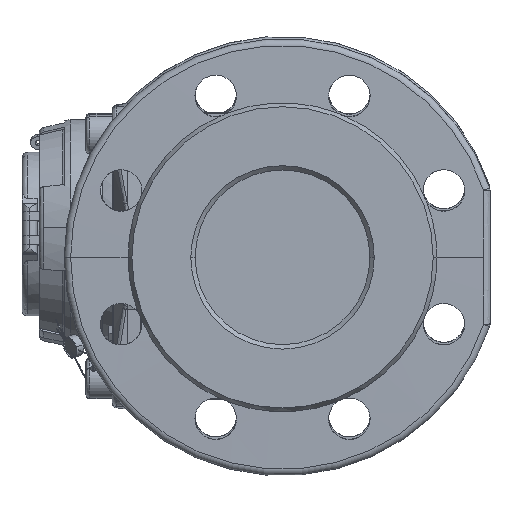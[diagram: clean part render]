
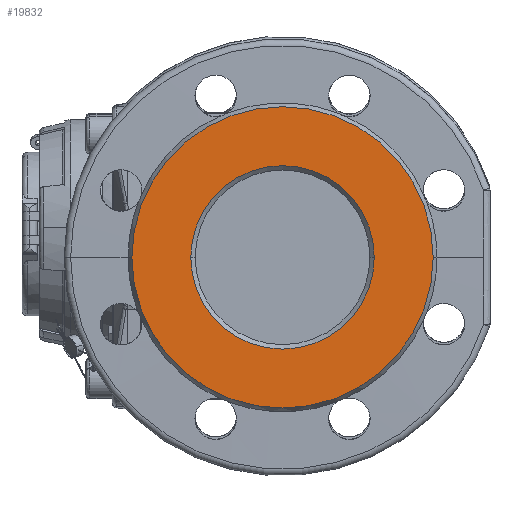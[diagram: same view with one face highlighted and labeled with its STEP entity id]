
A CAD part, left-side view. The second image highlights one B-rep face of the part: STEP entity #19832.
In plain terms, the highlighted planar face has unit normal (-1, 0, -0.006).
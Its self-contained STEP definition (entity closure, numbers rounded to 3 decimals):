
#1529 = DIRECTION ( 'NONE',  ( 1., 0., 0.006 ) ) ;
#1765 = DIRECTION ( 'NONE',  ( 1., 0., 0.006 ) ) ;
#4440 = DIRECTION ( 'NONE',  ( 1., 0., 0.006 ) ) ;
#5534 = AXIS2_PLACEMENT_3D ( 'NONE', #5764, #32602, #12916 ) ;
#5764 = CARTESIAN_POINT ( 'NONE',  ( 50.775, 98.683, -2.96 ) ) ;
#6966 = CIRCLE ( 'NONE', #31277, 42. ) ;
#7025 = CIRCLE ( 'NONE', #18406, 42. ) ;
#11593 = DIRECTION ( 'NONE',  ( 0., 1., 0. ) ) ;
#12916 = DIRECTION ( 'NONE',  ( 0., 1., 0. ) ) ;
#17054 = ORIENTED_EDGE ( 'NONE', *, *, #67967, .F. ) ;
#18406 = AXIS2_PLACEMENT_3D ( 'NONE', #35530, #1529, #61481 ) ;
#19832 = ADVANCED_FACE ( 'NONE', ( #40275, #47876 ), #74756, .F. ) ;
#23613 = DIRECTION ( 'NONE',  ( 0., 1., 0. ) ) ;
#24196 = AXIS2_PLACEMENT_3D ( 'NONE', #69806, #1765, #23613 ) ;
#30172 = AXIS2_PLACEMENT_3D ( 'NONE', #59647, #58762, #31935 ) ;
#31277 = AXIS2_PLACEMENT_3D ( 'NONE', #32162, #4440, #11593 ) ;
#31935 = DIRECTION ( 'NONE',  ( 0., 1., 0. ) ) ;
#32162 = CARTESIAN_POINT ( 'NONE',  ( 50.775, 98.683, -2.96 ) ) ;
#32602 = DIRECTION ( 'NONE',  ( 1., 0., 0.006 ) ) ;
#34617 = CARTESIAN_POINT ( 'NONE',  ( 50.775, 56.683, -2.96 ) ) ;
#35530 = CARTESIAN_POINT ( 'NONE',  ( 50.775, 98.683, -2.96 ) ) ;
#35546 = CIRCLE ( 'NONE', #5534, 69. ) ;
#35688 = CARTESIAN_POINT ( 'NONE',  ( 50.775, 140.683, -2.96 ) ) ;
#39409 = ORIENTED_EDGE ( 'NONE', *, *, #46346, .T. ) ;
#40275 = FACE_OUTER_BOUND ( 'NONE', #86050, .T. ) ;
#46346 = EDGE_CURVE ( 'NONE', #50825, #53795, #7025, .T. ) ;
#47876 = FACE_BOUND ( 'NONE', #76032, .T. ) ;
#48874 = EDGE_CURVE ( 'NONE', #83910, #85997, #68734, .T. ) ;
#50825 = VERTEX_POINT ( 'NONE', #35688 ) ;
#51996 = CARTESIAN_POINT ( 'NONE',  ( 50.775, 29.683, -2.96 ) ) ;
#53795 = VERTEX_POINT ( 'NONE', #34617 ) ;
#54286 = CARTESIAN_POINT ( 'NONE',  ( 50.775, 167.683, -2.96 ) ) ;
#58762 = DIRECTION ( 'NONE',  ( 1., 0., 0.006 ) ) ;
#58821 = ORIENTED_EDGE ( 'NONE', *, *, #48874, .F. ) ;
#59647 = CARTESIAN_POINT ( 'NONE',  ( 50.775, 98.683, -2.96 ) ) ;
#61481 = DIRECTION ( 'NONE',  ( 0., 1., 0. ) ) ;
#67967 = EDGE_CURVE ( 'NONE', #85997, #83910, #35546, .T. ) ;
#68734 = CIRCLE ( 'NONE', #30172, 69. ) ;
#69806 = CARTESIAN_POINT ( 'NONE',  ( 50.54, 98.683, 39.04 ) ) ;
#72745 = ORIENTED_EDGE ( 'NONE', *, *, #81197, .T. ) ;
#74756 = PLANE ( 'NONE',  #24196 ) ;
#76032 = EDGE_LOOP ( 'NONE', ( #72745, #39409 ) ) ;
#81197 = EDGE_CURVE ( 'NONE', #53795, #50825, #6966, .T. ) ;
#83910 = VERTEX_POINT ( 'NONE', #51996 ) ;
#85997 = VERTEX_POINT ( 'NONE', #54286 ) ;
#86050 = EDGE_LOOP ( 'NONE', ( #17054, #58821 ) ) ;
